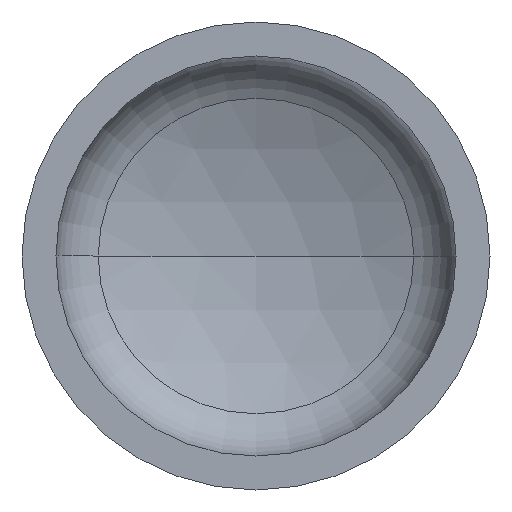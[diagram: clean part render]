
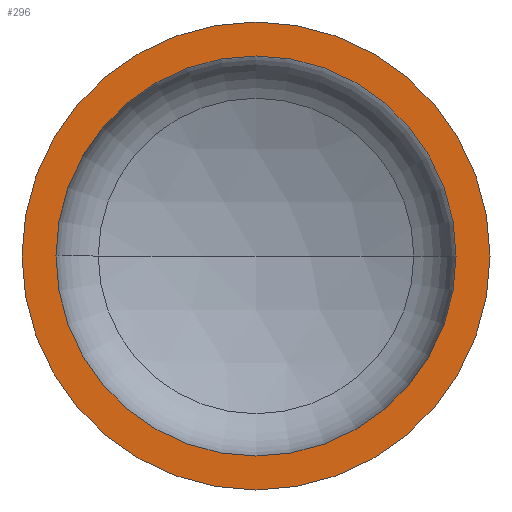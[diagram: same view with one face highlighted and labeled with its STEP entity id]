
A CAD part, front view. The second image highlights one B-rep face of the part: STEP entity #296.
In plain terms, the highlighted planar face has unit normal (0, -1, 0).
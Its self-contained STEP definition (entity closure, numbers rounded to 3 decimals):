
#8 = AXIS2_PLACEMENT_3D ( 'NONE', #242, #405, #266 ) ;
#11 = VERTEX_POINT ( 'NONE', #273 ) ;
#31 = ORIENTED_EDGE ( 'NONE', *, *, #373, .T. ) ;
#35 = FACE_OUTER_BOUND ( 'NONE', #46, .T. ) ;
#38 = AXIS2_PLACEMENT_3D ( 'NONE', #264, #73, #283 ) ;
#43 = DIRECTION ( 'NONE',  ( 0., -1., 0. ) ) ;
#46 = EDGE_LOOP ( 'NONE', ( #31, #53 ) ) ;
#51 = VERTEX_POINT ( 'NONE', #337 ) ;
#53 = ORIENTED_EDGE ( 'NONE', *, *, #169, .T. ) ;
#62 = VERTEX_POINT ( 'NONE', #181 ) ;
#63 = AXIS2_PLACEMENT_3D ( 'NONE', #222, #282, #132 ) ;
#72 = EDGE_LOOP ( 'NONE', ( #78, #390 ) ) ;
#73 = DIRECTION ( 'NONE',  ( 0., -1., 0. ) ) ;
#78 = ORIENTED_EDGE ( 'NONE', *, *, #171, .F. ) ;
#102 = VERTEX_POINT ( 'NONE', #232 ) ;
#132 = DIRECTION ( 'NONE',  ( -1., 0., 0. ) ) ;
#145 = AXIS2_PLACEMENT_3D ( 'NONE', #157, #320, #189 ) ;
#146 = AXIS2_PLACEMENT_3D ( 'NONE', #255, #43, #278 ) ;
#157 = CARTESIAN_POINT ( 'NONE',  ( 0., 0., 0. ) ) ;
#169 = EDGE_CURVE ( 'NONE', #102, #62, #312, .T. ) ;
#171 = EDGE_CURVE ( 'NONE', #11, #51, #197, .T. ) ;
#181 = CARTESIAN_POINT ( 'NONE',  ( 400., 0., 0. ) ) ;
#189 = DIRECTION ( 'NONE',  ( 1., 0., 0. ) ) ;
#197 = CIRCLE ( 'NONE', #145, 342. ) ;
#214 = CIRCLE ( 'NONE', #38, 342. ) ;
#222 = CARTESIAN_POINT ( 'NONE',  ( -400., 0., 0. ) ) ;
#232 = CARTESIAN_POINT ( 'NONE',  ( -400., 0., 0. ) ) ;
#242 = CARTESIAN_POINT ( 'NONE',  ( 0., 0., 0. ) ) ;
#255 = CARTESIAN_POINT ( 'NONE',  ( 0., 0., 0. ) ) ;
#261 = PLANE ( 'NONE',  #63 ) ;
#264 = CARTESIAN_POINT ( 'NONE',  ( 0., 0., 0. ) ) ;
#266 = DIRECTION ( 'NONE',  ( 1., 0., 0. ) ) ;
#273 = CARTESIAN_POINT ( 'NONE',  ( 342., 0., 0. ) ) ;
#277 = FACE_BOUND ( 'NONE', #72, .T. ) ;
#278 = DIRECTION ( 'NONE',  ( 1., 0., 0. ) ) ;
#282 = DIRECTION ( 'NONE',  ( 0., 1., 0. ) ) ;
#283 = DIRECTION ( 'NONE',  ( 1., 0., 0. ) ) ;
#296 = ADVANCED_FACE ( 'NONE', ( #277, #35 ), #261, .F. ) ;
#312 = CIRCLE ( 'NONE', #146, 400. ) ;
#313 = CIRCLE ( 'NONE', #8, 400. ) ;
#320 = DIRECTION ( 'NONE',  ( 0., -1., 0. ) ) ;
#337 = CARTESIAN_POINT ( 'NONE',  ( -342., 0., 0. ) ) ;
#351 = EDGE_CURVE ( 'NONE', #51, #11, #214, .T. ) ;
#373 = EDGE_CURVE ( 'NONE', #62, #102, #313, .T. ) ;
#390 = ORIENTED_EDGE ( 'NONE', *, *, #351, .F. ) ;
#405 = DIRECTION ( 'NONE',  ( 0., -1., 0. ) ) ;
